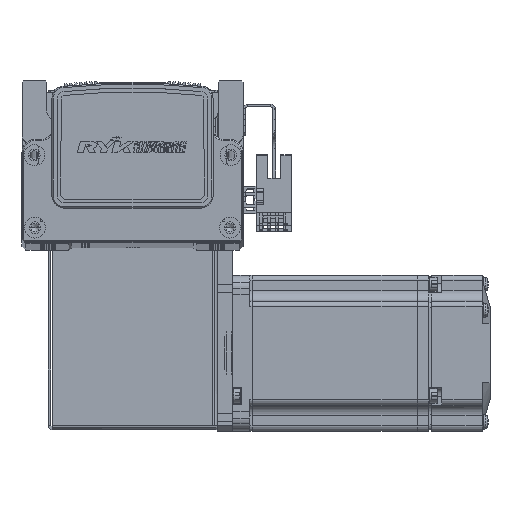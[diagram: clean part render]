
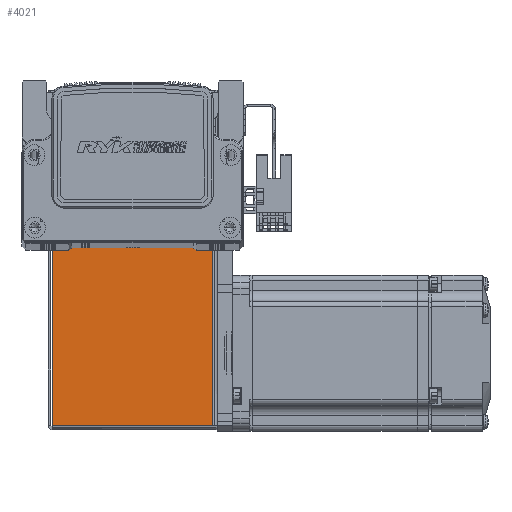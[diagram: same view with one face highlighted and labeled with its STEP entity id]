
A CAD part, top view. The second image highlights one B-rep face of the part: STEP entity #4021.
In plain terms, the highlighted planar face has unit normal (0, 0, 1).
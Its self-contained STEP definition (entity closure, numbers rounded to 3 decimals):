
#1042 = ORIENTED_EDGE ( 'NONE', *, *, #40704, .F. ) ;
#1056 = ORIENTED_EDGE ( 'NONE', *, *, #40610, .T. ) ;
#1083 = ORIENTED_EDGE ( 'NONE', *, *, #40612, .F. ) ;
#1084 = ORIENTED_EDGE ( 'NONE', *, *, #40646, .T. ) ;
#4021 = ADVANCED_FACE ( 'NONE', ( #72298 ), #58799, .F. ) ;
#7524 = VECTOR ( 'NONE', #77535, 1000. ) ;
#7528 = LINE ( 'NONE', #77519, #7539 ) ;
#7536 = VECTOR ( 'NONE', #77534, 1000. ) ;
#7539 = VECTOR ( 'NONE', #77521, 1000. ) ;
#7556 = LINE ( 'NONE', #77525, #7536 ) ;
#7562 = LINE ( 'NONE', #77562, #7524 ) ;
#7578 = LINE ( 'NONE', #77619, #7625 ) ;
#7625 = VECTOR ( 'NONE', #77620, 1000. ) ;
#13075 = CARTESIAN_POINT ( 'NONE',  ( 30.763, 72.5, 35. ) ) ;
#13083 = CARTESIAN_POINT ( 'NONE',  ( -30.793, 72.5, 35. ) ) ;
#13133 = CARTESIAN_POINT ( 'NONE',  ( 30.763, 0.737, 35. ) ) ;
#13152 = CARTESIAN_POINT ( 'NONE',  ( -30.793, 0.737, 35. ) ) ;
#40610 = EDGE_CURVE ( 'NONE', #73490, #73446, #7528, .T. ) ;
#40612 = EDGE_CURVE ( 'NONE', #73483, #73447, #7562, .T. ) ;
#40646 = EDGE_CURVE ( 'NONE', #73446, #73447, #7556, .T. ) ;
#40704 = EDGE_CURVE ( 'NONE', #73490, #73483, #7578, .T. ) ;
#47420 = EDGE_LOOP ( 'NONE', ( #1056, #1084, #1083, #1042 ) ) ;
#58780 = CARTESIAN_POINT ( 'NONE',  ( 0., 0., 35. ) ) ;
#58799 = PLANE ( 'NONE',  #59795 ) ;
#58810 = DIRECTION ( 'NONE',  ( 0., 0., -1. ) ) ;
#58819 = DIRECTION ( 'NONE',  ( -1., 0., 0. ) ) ;
#59795 = AXIS2_PLACEMENT_3D ( 'NONE', #58780, #58810, #58819 ) ;
#72298 = FACE_OUTER_BOUND ( 'NONE', #47420, .T. ) ;
#73446 = VERTEX_POINT ( 'NONE', #13075 ) ;
#73447 = VERTEX_POINT ( 'NONE', #13083 ) ;
#73483 = VERTEX_POINT ( 'NONE', #13152 ) ;
#73490 = VERTEX_POINT ( 'NONE', #13133 ) ;
#77519 = CARTESIAN_POINT ( 'NONE',  ( 30.763, 0.737, 35. ) ) ;
#77521 = DIRECTION ( 'NONE',  ( 0., 1., 0. ) ) ;
#77525 = CARTESIAN_POINT ( 'NONE',  ( 0., 72.5, 35. ) ) ;
#77534 = DIRECTION ( 'NONE',  ( -1., 0., 0. ) ) ;
#77535 = DIRECTION ( 'NONE',  ( 0., 1., 0. ) ) ;
#77562 = CARTESIAN_POINT ( 'NONE',  ( -30.793, 0., 35. ) ) ;
#77619 = CARTESIAN_POINT ( 'NONE',  ( -32.5, 0.737, 35. ) ) ;
#77620 = DIRECTION ( 'NONE',  ( -1., 0., 0. ) ) ;
